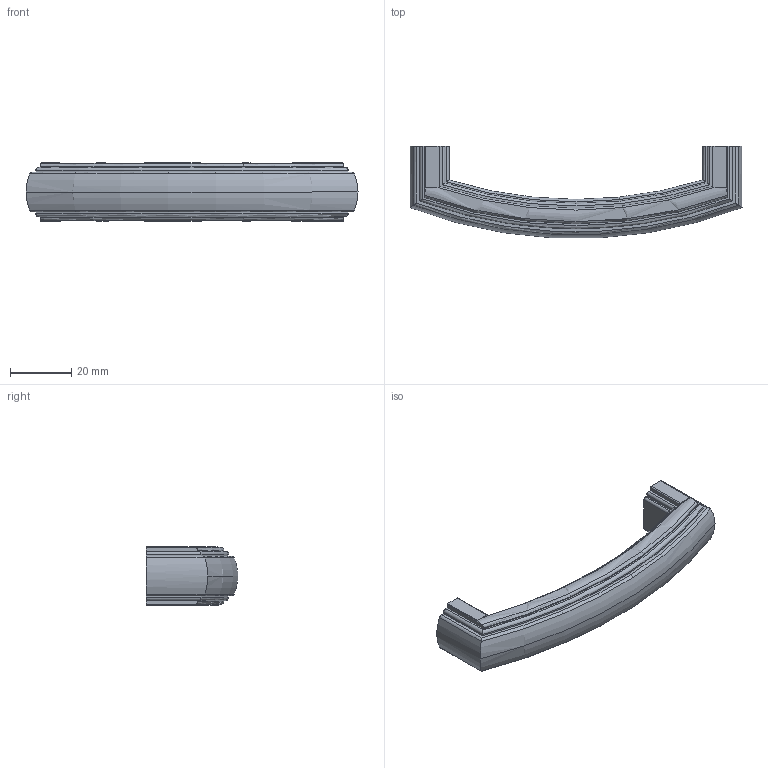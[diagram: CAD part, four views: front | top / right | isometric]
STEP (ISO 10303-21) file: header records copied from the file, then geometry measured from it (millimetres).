
FILE_DESCRIPTION( ( '' ), '1' );
FILE_NAME( 'C:/Documents and Settings/Sachin/Desktop/Sheet 10_1/stp/9131285.stp', '2013-10-22T11:30:16', ( '' ), ( '' ), ' ', ' ', ' ' );
FILE_SCHEMA( ( 'CONFIG_CONTROL_DESIGN' ) );
Length unit declared in the file: millimetre
Products named in the file (1): 1
Bounding box: 108 x 29.79 x 19 mm (x, y, z)
Volume: 24591 mm3; surface area: 7782.5 mm2
Topology: 1 solids, 1 shells, 97 faces, 267 edges, 174 vertices
Faces by surface type: cylinder 43, plane 38, torus 16
Entity records: 3444 total; most frequent: CARTESIAN_POINT 953, ORIENTED_EDGE 534, DIRECTION 494, EDGE_CURVE 267, AXIS2_PLACEMENT_3D 179, VERTEX_POINT 174, LINE 136, VECTOR 136
